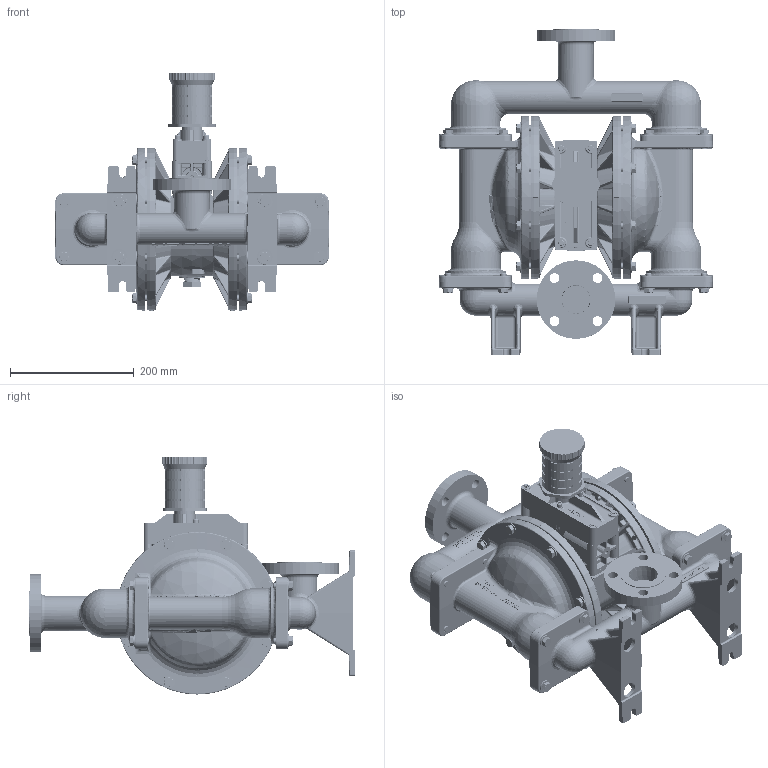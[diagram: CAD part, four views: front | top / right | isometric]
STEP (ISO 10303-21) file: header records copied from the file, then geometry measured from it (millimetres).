
FILE_DESCRIPTION (( 'STEP AP203' ), '1' );
FILE_NAME ('P430_Metal_Top_ANSI.STEP', '2022-07-05T07:23:13', ( '' ), ( '' ), 'SwSTEP 2.0', 'SolidWorks 2019', '' );
FILE_SCHEMA (( 'CONFIG_CONTROL_DESIGN' ));
Products named in the file (1): P430_Metal_Top_ANSI
Bounding box: 443.47 x 526.03 x 384.43 mm (x, y, z)
Volume: 13997379.3 mm3; surface area: 1054269.7 mm2
Topology: 1 solids, 1 shells, 9440 faces, 23629 edges, 14456 vertices
Faces by surface type: plane 4164, bspline 2156, cylinder 1255, cone 772, torus 748, sphere 345
Entity records: 522369 total; most frequent: CARTESIAN_POINT 315411, ORIENTED_EDGE 47174, DIRECTION 37547, EDGE_CURVE 23587, VERTEX_POINT 14443, AXIS2_PLACEMENT_3D 13324, LINE 10899, VECTOR 10899
